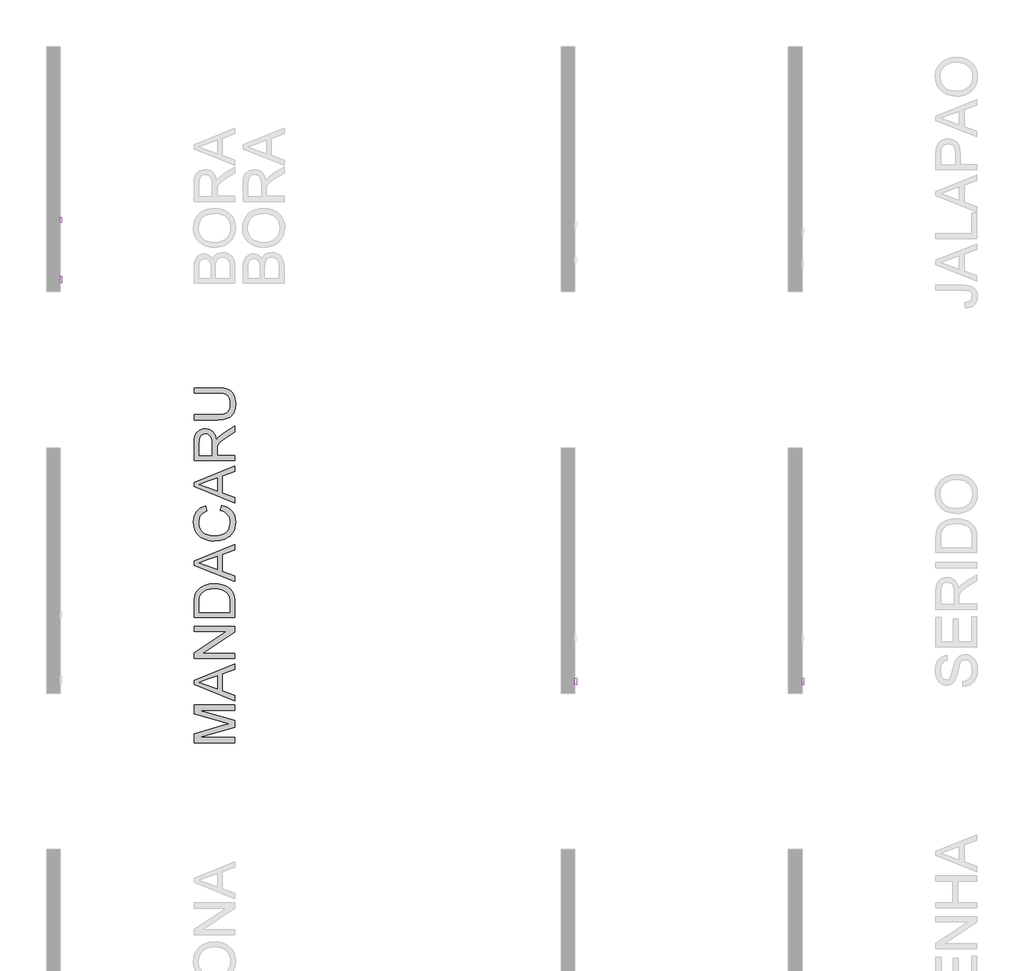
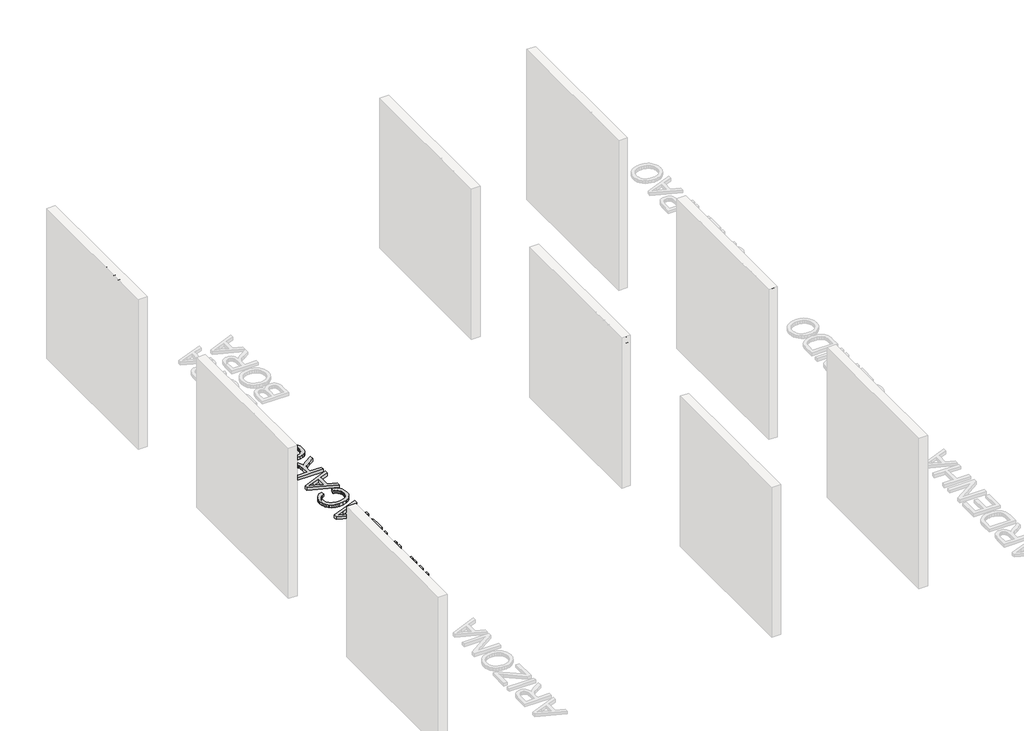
# One storey, part 8 of 11: 5 proxies.
"""IFC4 building model written with IfcOpenShell, lengths in millimetres."""

from ifc_helpers import new_model, si_unit, frame, origin, origin_with_axes, place, context, project, spatial, polyline, outline, extrude, element, save

model = new_model("IFC4")

# Units and contexts
model_context = context("Model", 3, world=origin())
ifc_project = project(units=[si_unit("LENGTHUNIT", "METRE", prefix="MILLI")], contexts=[model_context])

# Site, building, storey
site = spatial("IfcSite", under=ifc_project)
building = spatial("IfcBuilding", under=site)
storey = spatial("IfcBuildingStorey", under=building, Name="PORTOBELLO - SHOWROOM", Elevation=0.0)

# Proxies
placement = place(None, origin())
element("IfcBuildingElementProxy", 1, Name="10mm Arial", ObjectType="10mm Arial", at=placement, inside=storey, context=model_context, shape_type="SweptSolid", body=[
    extrude(outline(polyline([(6079.9490841, 2478.2261649), (6079.9490841, 2578.6824751), (6118.282388, 2578.6824751), (6137.0566325, 2575.7271564), (6148.1421433, 2566.6404711), (6152.152057, 2553.7891267), (6148.7798054, 2542.0536911), (6138.5894742, 2533.1632095), (6150.9625719, 2523.7944814), (6155.2913167, 2508.1717593), (6152.335998, 2494.6704901), (6145.0151463, 2485.0565073), (6134.0890511, 2479.9552103), (6117.9880824, 2478.2261649), (6079.9490841, 2478.2261649)]), holes=[polyline([(6092.5061229, 2537.8720991), (6115.4374339, 2537.8720991), (6128.8283385, 2538.9512196), (6136.8849542, 2543.5987955), (6139.5950183, 2551.7780385), (6137.0688952, 2559.9695443), (6129.8338827, 2564.8133239), (6113.6961258, 2566.1254363), (6092.5061229, 2566.1254363), (6092.5061229, 2537.8720991)]), polyline([(6092.5061229, 2490.7832037), (6118.2578626, 2490.7832037), (6127.5775398, 2491.273713), (6135.4624772, 2494.0083025), (6140.6864015, 2499.5878461), (6142.734278, 2508.049132), (6140.3307823, 2517.8102676), (6132.5439467, 2523.6350659), (6117.0315892, 2525.3150603), (6092.5061229, 2525.3150603), (6092.5061229, 2490.7832037)])]), frame((-24947.8341365, 0.0, 0.0), z_axis=(1.0, 0.0, 0.0), x_axis=(0.0, 1.0, 0.0)), (0.0, 0.0, 1.0), 20.0),
    extrude(outline(polyline([(6167.8483555, 2515.1124663), (6170.5645509, 2532.8995608), (6178.7131371, 2545.4014173), (6188.780841, 2551.5266525), (6200.8351077, 2553.5683975), (6214.0267429, 2551.0821284), (6224.5634964, 2543.6233209), (6231.4704809, 2531.7805864), (6233.772809, 2516.1425359), (6229.7015816, 2493.7998361), (6217.8435186, 2481.1569582), (6200.8351077, 2476.6565351), (6187.484057, 2479.1336072), (6176.9595662, 2486.5648235), (6170.1261582, 2498.6558784), (6167.8483555, 2515.1124663)]), holes=[polyline([(6180.4053943, 2515.1369918), (6181.8585282, 2503.7725038), (6186.2179298, 2495.6760342), (6192.778492, 2490.829189), (6200.8351077, 2489.2135739), (6208.8549352, 2490.838386), (6215.4032347, 2495.7128224), (6219.7626364, 2503.9165909), (6221.2157703, 2515.5293992), (6219.7534393, 2526.5627934), (6215.3664465, 2534.5488984), (6208.80895, 2539.3957437), (6200.8351077, 2541.0113588), (6192.778492, 2539.401875), (6186.2179298, 2534.5734239), (6181.8585282, 2526.4953484), (6180.4053943, 2515.1369918)])]), frame((-24947.8341365, 0.0, 0.0), z_axis=(1.0, 0.0, 0.0), x_axis=(0.0, 1.0, 0.0)), (0.0, 0.0, 1.0), 20.0),
    extrude(outline(polyline([(6247.8994777, 2478.2261649), (6247.8994777, 2551.9987677), (6258.8868866, 2551.9987677), (6258.8868866, 2541.0849352), (6266.6859849, 2551.1403764), (6274.5341341, 2553.5683975), (6287.1402238, 2549.6933739), (6282.9463691, 2538.4361848), (6274.1172012, 2541.0113588), (6267.0170787, 2538.5342867), (6262.4921301, 2531.6671561), (6260.4565164, 2517.0009272), (6260.4565164, 2478.2261649), (6247.8994777, 2478.2261649)])), frame((-24947.8341365, 0.0, 0.0), z_axis=(1.0, 0.0, 0.0), x_axis=(0.0, 1.0, 0.0)), (0.0, 0.0, 1.0), 20.0),
    extrude(outline(polyline([(6342.0772684, 2487.643944), (6329.9003744, 2479.1336072), (6316.4481561, 2476.6565351), (6305.9543222, 2478.1464572), (6298.2134719, 2482.6162234), (6293.440203, 2489.4036462), (6291.8491133, 2497.846538), (6294.252609, 2507.7793519), (6300.5679166, 2514.989839), (6309.3602963, 2519.1101173), (6320.2250779, 2520.9985782), (6342.003692, 2525.3150603), (6342.0772684, 2528.1109635), (6338.6191777, 2537.3815898), (6324.7377637, 2541.0113588), (6312.0335721, 2538.5956003), (6305.975782, 2530.0239499), (6293.4187432, 2531.5935797), (6298.851134, 2543.8563129), (6309.789492, 2551.0422745), (6326.3564445, 2553.5683975), (6341.5744964, 2551.3365801), (6350.1706723, 2545.732511), (6354.0211705, 2537.2099115), (6354.6343072, 2526.2225026), (6354.6343072, 2510.5997805), (6355.2719693, 2488.7843782), (6357.7735669, 2478.2261649), (6345.2165281, 2478.2261649), (6342.0772684, 2487.643944)]), holes=[polyline([(6342.0772684, 2512.7580215), (6321.8192332, 2508.9075233), (6311.0157653, 2506.8719096), (6306.1229348, 2503.5609717), (6304.4061521, 2498.7294548), (6308.1462857, 2491.9359006), (6319.1214319, 2489.2135739), (6331.8256235, 2492.2179435), (6340.0171292, 2499.4897443), (6342.003692, 2509.2018289), (6342.0772684, 2512.7580215)])]), frame((-24947.8341365, 0.0, 0.0), z_axis=(1.0, 0.0, 0.0), x_axis=(0.0, 1.0, 0.0)), (0.0, 0.0, 1.0), 20.0),
    extrude(outline(polyline([(6412.7106115, 2478.2261649), (6412.7106115, 2578.6824751), (6451.0439154, 2578.6824751), (6469.8181599, 2575.7271564), (6480.9036707, 2566.6404711), (6484.9135844, 2553.7891267), (6481.5413328, 2542.0536911), (6471.3510015, 2533.1632095), (6483.7240993, 2523.7944814), (6488.0528441, 2508.1717593), (6485.0975254, 2494.6704901), (6477.7766737, 2485.0565073), (6466.8505784, 2479.9552103), (6450.7496098, 2478.2261649), (6412.7106115, 2478.2261649)]), holes=[polyline([(6425.2676503, 2537.8720991), (6448.1989613, 2537.8720991), (6461.5898659, 2538.9512196), (6469.6464816, 2543.5987955), (6472.3565456, 2551.7780385), (6469.8304226, 2559.9695443), (6462.59541, 2564.8133239), (6446.4576532, 2566.1254363), (6425.2676503, 2566.1254363), (6425.2676503, 2537.8720991)]), polyline([(6425.2676503, 2490.7832037), (6451.0193899, 2490.7832037), (6460.3390671, 2491.273713), (6468.2240046, 2494.0083025), (6473.4479289, 2499.5878461), (6475.4958053, 2508.049132), (6473.0923096, 2517.8102676), (6465.3054741, 2523.6350659), (6449.7931166, 2525.3150603), (6425.2676503, 2525.3150603), (6425.2676503, 2490.7832037)])]), frame((-24947.8341365, 0.0, 0.0), z_axis=(1.0, 0.0, 0.0), x_axis=(0.0, 1.0, 0.0)), (0.0, 0.0, 1.0), 20.0),
    extrude(outline(polyline([(6500.6098829, 2515.1124663), (6503.3260783, 2532.8995608), (6511.4746645, 2545.4014173), (6521.5423684, 2551.5266525), (6533.5966351, 2553.5683975), (6546.7882703, 2551.0821284), (6557.3250238, 2543.6233209), (6564.2320083, 2531.7805864), (6566.5343364, 2516.1425359), (6562.463109, 2493.7998361), (6550.605046, 2481.1569582), (6533.5966351, 2476.6565351), (6520.2455844, 2479.1336072), (6509.7210936, 2486.5648235), (6502.8876856, 2498.6558784), (6500.6098829, 2515.1124663)]), holes=[polyline([(6513.1669216, 2515.1369918), (6514.6200555, 2503.7725038), (6518.9794572, 2495.6760342), (6525.5400194, 2490.829189), (6533.5966351, 2489.2135739), (6541.6164626, 2490.838386), (6548.1647621, 2495.7128224), (6552.5241638, 2503.9165909), (6553.9772976, 2515.5293992), (6552.5149667, 2526.5627934), (6548.1279739, 2534.5488984), (6541.5704774, 2539.3957437), (6533.5966351, 2541.0113588), (6525.5400194, 2539.401875), (6518.9794572, 2534.5734239), (6514.6200555, 2526.4953484), (6513.1669216, 2515.1369918)])]), frame((-24947.8341365, 0.0, 0.0), z_axis=(1.0, 0.0, 0.0), x_axis=(0.0, 1.0, 0.0)), (0.0, 0.0, 1.0), 20.0),
    extrude(outline(polyline([(6580.661005, 2478.2261649), (6580.661005, 2551.9987677), (6591.6484139, 2551.9987677), (6591.6484139, 2541.0849352), (6599.4475122, 2551.1403764), (6607.2956615, 2553.5683975), (6619.9017512, 2549.6933739), (6615.7078964, 2538.4361848), (6606.8787285, 2541.0113588), (6599.778606, 2538.5342867), (6595.2536575, 2531.6671561), (6593.2180438, 2517.0009272), (6593.2180438, 2478.2261649), (6580.661005, 2478.2261649)])), frame((-24947.8341365, 0.0, 0.0), z_axis=(1.0, 0.0, 0.0), x_axis=(0.0, 1.0, 0.0)), (0.0, 0.0, 1.0), 20.0),
    extrude(outline(polyline([(6674.8387958, 2487.643944), (6662.6619017, 2479.1336072), (6649.2096835, 2476.6565351), (6638.7158495, 2478.1464572), (6630.9749992, 2482.6162234), (6626.2017303, 2489.4036462), (6624.6106407, 2497.846538), (6627.0141364, 2507.7793519), (6633.329444, 2514.989839), (6642.1218237, 2519.1101173), (6652.9866053, 2520.9985782), (6674.7652194, 2525.3150603), (6674.8387958, 2528.1109635), (6671.380705, 2537.3815898), (6657.4992911, 2541.0113588), (6644.7950995, 2538.5956003), (6638.7373093, 2530.0239499), (6626.1802706, 2531.5935797), (6631.6126614, 2543.8563129), (6642.5510193, 2551.0422745), (6659.1179719, 2553.5683975), (6674.3360237, 2551.3365801), (6682.9321997, 2545.732511), (6686.7826979, 2537.2099115), (6687.3958346, 2526.2225026), (6687.3958346, 2510.5997805), (6688.0334967, 2488.7843782), (6690.5350942, 2478.2261649), (6677.9780555, 2478.2261649), (6674.8387958, 2487.643944)]), holes=[polyline([(6674.8387958, 2512.7580215), (6654.5807606, 2508.9075233), (6643.7772927, 2506.8719096), (6638.8844621, 2503.5609717), (6637.1676795, 2498.7294548), (6640.9078131, 2491.9359006), (6651.8829593, 2489.2135739), (6664.5871509, 2492.2179435), (6672.7786566, 2499.4897443), (6674.7652194, 2509.2018289), (6674.8387958, 2512.7580215)])]), frame((-24947.8341365, 0.0, 0.0), z_axis=(1.0, 0.0, 0.0), x_axis=(0.0, 1.0, 0.0)), (0.0, 0.0, 1.0), 20.0),
])
element("IfcBuildingElementProxy", 2, Name="10mm Arial", ObjectType="10mm Arial", at=placement, inside=storey, context=model_context, shape_type="SweptSolid", body=[
    extrude(outline(polyline([(1655.2401946, 2512.7580215), (1667.7972334, 2512.7580215), (1671.8439353, 2500.18872), (1681.7276982, 2492.242469), (1696.7863346, 2489.2135739), (1709.9074591, 2491.506705), (1718.3810077, 2497.8097498), (1721.1646481, 2506.2342475), (1719.0799835, 2514.070134), (1710.5451212, 2519.7723049), (1692.261386, 2524.5670336), (1672.5796993, 2530.7597138), (1661.8988587, 2540.1039165), (1658.3794543, 2552.5873789), (1662.7327246, 2566.7998866), (1675.4491789, 2576.8308024), (1694.0640078, 2580.2521049), (1713.9296355, 2576.6713868), (1727.1733874, 2566.1499618), (1732.152057, 2550.4291379), (1719.5950183, 2550.4291379), (1717.2896244, 2557.9216678), (1712.482633, 2563.3295332), (1694.5545171, 2567.6950662), (1676.5773503, 2563.3785841), (1670.936493, 2552.9552609), (1674.9341441, 2544.2487203), (1695.4374339, 2537.234437), (1717.6575064, 2530.9313921), (1729.809875, 2520.7533236), (1733.7216869, 2506.5530786), (1729.2212638, 2491.5312304), (1716.2718176, 2480.568347), (1697.2768439, 2476.6565351), (1674.8483049, 2480.8749153), (1660.6603226, 2493.5791069), (1655.2401946, 2512.7580215)])), frame((-16783.2092306, 0.0, 0.0), z_axis=(1.0, 0.0, 0.0), x_axis=(0.0, 1.0, 0.0)), (0.0, 0.0, 1.0), 20.0),
    extrude(outline(polyline([(1802.6382473, 2500.2009828), (1814.9500314, 2498.6313529), (1810.5139877, 2489.3545953), (1803.435325, 2482.4200197), (1793.8734588, 2478.0974062), (1781.9878047, 2476.6565351), (1767.2541307, 2479.1428042), (1755.9172339, 2486.6016117), (1748.6883527, 2498.5485795), (1746.2787257, 2514.4993297), (1748.7128782, 2530.9865744), (1756.0153358, 2543.3167526), (1767.1989484, 2551.0054863), (1781.2765661, 2553.5683975), (1794.9157911, 2551.0116177), (1805.8142952, 2543.3412781), (1812.960403, 2531.0356253), (1815.3424389, 2514.5729061), (1815.2688625, 2511.1883917), (1758.8357644, 2511.1883917), (1761.0093339, 2501.7890067), (1766.0585143, 2494.8789566), (1773.3456435, 2490.6299195), (1782.2330593, 2489.2135739), (1794.5448434, 2491.8377988), (1802.6382473, 2500.2009828)]), holes=[polyline([(1758.8357644, 2523.7454305), (1802.7854001, 2523.7454305), (1797.7576795, 2535.1252469), (1790.4368278, 2539.5398308), (1781.2275152, 2541.0113588), (1765.7642087, 2536.314732), (1760.8989693, 2530.8240932), (1758.8357644, 2523.7454305)])]), frame((-16783.2092306, 0.0, 0.0), z_axis=(1.0, 0.0, 0.0), x_axis=(0.0, 1.0, 0.0)), (0.0, 0.0, 1.0), 20.0),
    extrude(outline(polyline([(1827.8994777, 2478.2261649), (1827.8994777, 2551.9987677), (1838.8868866, 2551.9987677), (1838.8868866, 2541.0849352), (1846.6859849, 2551.1403764), (1854.5341341, 2553.5683975), (1867.1402238, 2549.6933739), (1862.9463691, 2538.4361848), (1854.1172012, 2541.0113588), (1847.0170787, 2538.5342867), (1842.4921301, 2531.6671561), (1840.4565164, 2517.0009272), (1840.4565164, 2478.2261649), (1827.8994777, 2478.2261649)])), frame((-16783.2092306, 0.0, 0.0), z_axis=(1.0, 0.0, 0.0), x_axis=(0.0, 1.0, 0.0)), (0.0, 0.0, 1.0), 20.0),
    extrude(outline(polyline([(-16763.2092306, 1887.5454118), (-16763.2092306, 1874.988373), (-16783.2092306, 1874.988373), (-16783.2092306, 1887.5454118), (-16763.2092306, 1887.5454118)])), frame((0.0, 0.0, 2566.1254363), z_axis=(0.0, 0.0, 1.0), x_axis=(1.0, 0.0, 0.0)), (0.0, 0.0, 1.0), 12.5570388),
    extrude(outline(polyline([(-16763.2092306, 1887.5454118), (-16763.2092306, 1874.988373), (-16783.2092306, 1874.988373), (-16783.2092306, 1887.5454118), (-16763.2092306, 1887.5454118)])), frame((0.0, 0.0, 2478.2261649), z_axis=(0.0, 0.0, 1.0), x_axis=(1.0, 0.0, 0.0)), (0.0, 0.0, 1.0), 73.7726028),
    extrude(outline(polyline([(1951.9002355, 2478.2261649), (1951.9002355, 2490.0719652), (1943.5922338, 2480.0103926), (1932.1081842, 2476.6565351), (1916.5590385, 2481.5125774), (1905.5716296, 2495.0628976), (1901.6720804, 2515.0388899), (1905.2650612, 2535.027145), (1916.031741, 2548.7859316), (1932.0591332, 2553.5683975), (1943.6351533, 2550.147095), (1951.9002355, 2541.2566134), (1951.9002355, 2578.6824751), (1964.4572743, 2578.6824751), (1964.4572743, 2478.2261649), (1951.9002355, 2478.2261649)]), holes=[polyline([(1914.2291192, 2515.0879409), (1915.6454649, 2503.7295842), (1919.8945019, 2495.6515088), (1926.0687881, 2490.8230576), (1933.2608811, 2489.2135739), (1940.4499084, 2490.7494812), (1946.4678447, 2495.3572032), (1950.5421378, 2503.122579), (1951.9002355, 2514.1314477), (1950.5176123, 2526.1673203), (1946.3697428, 2534.5121102), (1940.1985224, 2539.3865466), (1932.7458463, 2541.0113588), (1925.4801769, 2539.450926), (1919.5266199, 2534.7696276), (1915.5534944, 2526.7283403), (1914.2291192, 2515.0879409)])]), frame((-16783.2092306, 0.0, 0.0), z_axis=(1.0, 0.0, 0.0), x_axis=(0.0, 1.0, 0.0)), (0.0, 0.0, 1.0), 20.0),
    extrude(outline(polyline([(1980.1535727, 2515.1124663), (1982.8697681, 2532.8995608), (1991.0183543, 2545.4014173), (2001.0860582, 2551.5266525), (2013.140325, 2553.5683975), (2026.3319602, 2551.0821284), (2036.8687136, 2543.6233209), (2043.7756981, 2531.7805864), (2046.0780263, 2516.1425359), (2042.0067988, 2493.7998361), (2030.1487359, 2481.1569582), (2013.140325, 2476.6565351), (1999.7892742, 2479.1336072), (1989.2647835, 2486.5648235), (1982.4313754, 2498.6558784), (1980.1535727, 2515.1124663)]), holes=[polyline([(1992.7106115, 2515.1369918), (1994.1637454, 2503.7725038), (1998.523147, 2495.6760342), (2005.0837093, 2490.829189), (2013.140325, 2489.2135739), (2021.1601525, 2490.838386), (2027.708452, 2495.7128224), (2032.0678536, 2503.9165909), (2033.5209875, 2515.5293992), (2032.0586566, 2526.5627934), (2027.6716638, 2534.5488984), (2021.1141672, 2539.3957437), (2013.140325, 2541.0113588), (2005.0837093, 2539.401875), (1998.523147, 2534.5734239), (1994.1637454, 2526.4953484), (1992.7106115, 2515.1369918)])]), frame((-16783.2092306, 0.0, 0.0), z_axis=(1.0, 0.0, 0.0), x_axis=(0.0, 1.0, 0.0)), (0.0, 0.0, 1.0), 20.0),
])
element("IfcBuildingElementProxy", 3, Name="10mm Arial", ObjectType="10mm Arial", at=placement, inside=storey, context=model_context, shape_type="SweptSolid", body=[
    extrude(outline(polyline([(1655.2401946, 2512.7580215), (1667.7972334, 2512.7580215), (1671.8439353, 2500.18872), (1681.7276982, 2492.242469), (1696.7863346, 2489.2135739), (1709.9074591, 2491.506705), (1718.3810077, 2497.8097498), (1721.1646481, 2506.2342475), (1719.0799835, 2514.070134), (1710.5451212, 2519.7723049), (1692.261386, 2524.5670336), (1672.5796993, 2530.7597138), (1661.8988587, 2540.1039165), (1658.3794543, 2552.5873789), (1662.7327246, 2566.7998866), (1675.4491789, 2576.8308024), (1694.0640078, 2580.2521049), (1713.9296355, 2576.6713868), (1727.1733874, 2566.1499618), (1732.152057, 2550.4291379), (1719.5950183, 2550.4291379), (1717.2896244, 2557.9216678), (1712.482633, 2563.3295332), (1694.5545171, 2567.6950662), (1676.5773503, 2563.3785841), (1670.936493, 2552.9552609), (1674.9341441, 2544.2487203), (1695.4374339, 2537.234437), (1717.6575064, 2530.9313921), (1729.809875, 2520.7533236), (1733.7216869, 2506.5530786), (1729.2212638, 2491.5312304), (1716.2718176, 2480.568347), (1697.2768439, 2476.6565351), (1674.8483049, 2480.8749153), (1660.6603226, 2493.5791069), (1655.2401946, 2512.7580215)])), frame((-19283.2092306, 0.0, 0.0), z_axis=(1.0, 0.0, 0.0), x_axis=(0.0, 1.0, 0.0)), (0.0, 0.0, 1.0), 20.0),
    extrude(outline(polyline([(1802.6382473, 2500.2009828), (1814.9500314, 2498.6313529), (1810.5139877, 2489.3545953), (1803.435325, 2482.4200197), (1793.8734588, 2478.0974062), (1781.9878047, 2476.6565351), (1767.2541307, 2479.1428042), (1755.9172339, 2486.6016117), (1748.6883527, 2498.5485795), (1746.2787257, 2514.4993297), (1748.7128782, 2530.9865744), (1756.0153358, 2543.3167526), (1767.1989484, 2551.0054863), (1781.2765661, 2553.5683975), (1794.9157911, 2551.0116177), (1805.8142952, 2543.3412781), (1812.960403, 2531.0356253), (1815.3424389, 2514.5729061), (1815.2688625, 2511.1883917), (1758.8357644, 2511.1883917), (1761.0093339, 2501.7890067), (1766.0585143, 2494.8789566), (1773.3456435, 2490.6299195), (1782.2330593, 2489.2135739), (1794.5448434, 2491.8377988), (1802.6382473, 2500.2009828)]), holes=[polyline([(1758.8357644, 2523.7454305), (1802.7854001, 2523.7454305), (1797.7576795, 2535.1252469), (1790.4368278, 2539.5398308), (1781.2275152, 2541.0113588), (1765.7642087, 2536.314732), (1760.8989693, 2530.8240932), (1758.8357644, 2523.7454305)])]), frame((-19283.2092306, 0.0, 0.0), z_axis=(1.0, 0.0, 0.0), x_axis=(0.0, 1.0, 0.0)), (0.0, 0.0, 1.0), 20.0),
    extrude(outline(polyline([(1827.8994777, 2478.2261649), (1827.8994777, 2551.9987677), (1838.8868866, 2551.9987677), (1838.8868866, 2541.0849352), (1846.6859849, 2551.1403764), (1854.5341341, 2553.5683975), (1867.1402238, 2549.6933739), (1862.9463691, 2538.4361848), (1854.1172012, 2541.0113588), (1847.0170787, 2538.5342867), (1842.4921301, 2531.6671561), (1840.4565164, 2517.0009272), (1840.4565164, 2478.2261649), (1827.8994777, 2478.2261649)])), frame((-19283.2092306, 0.0, 0.0), z_axis=(1.0, 0.0, 0.0), x_axis=(0.0, 1.0, 0.0)), (0.0, 0.0, 1.0), 20.0),
    extrude(outline(polyline([(-19263.2092306, 1887.5454118), (-19263.2092306, 1874.988373), (-19283.2092306, 1874.988373), (-19283.2092306, 1887.5454118), (-19263.2092306, 1887.5454118)])), frame((0.0, 0.0, 2566.1254363), z_axis=(0.0, 0.0, 1.0), x_axis=(1.0, 0.0, 0.0)), (0.0, 0.0, 1.0), 12.5570388),
    extrude(outline(polyline([(-19263.2092306, 1887.5454118), (-19263.2092306, 1874.988373), (-19283.2092306, 1874.988373), (-19283.2092306, 1887.5454118), (-19263.2092306, 1887.5454118)])), frame((0.0, 0.0, 2478.2261649), z_axis=(0.0, 0.0, 1.0), x_axis=(1.0, 0.0, 0.0)), (0.0, 0.0, 1.0), 73.7726028),
    extrude(outline(polyline([(1951.9002355, 2478.2261649), (1951.9002355, 2490.0719652), (1943.5922338, 2480.0103926), (1932.1081842, 2476.6565351), (1916.5590385, 2481.5125774), (1905.5716296, 2495.0628976), (1901.6720804, 2515.0388899), (1905.2650612, 2535.027145), (1916.031741, 2548.7859316), (1932.0591332, 2553.5683975), (1943.6351533, 2550.147095), (1951.9002355, 2541.2566134), (1951.9002355, 2578.6824751), (1964.4572743, 2578.6824751), (1964.4572743, 2478.2261649), (1951.9002355, 2478.2261649)]), holes=[polyline([(1914.2291192, 2515.0879409), (1915.6454649, 2503.7295842), (1919.8945019, 2495.6515088), (1926.0687881, 2490.8230576), (1933.2608811, 2489.2135739), (1940.4499084, 2490.7494812), (1946.4678447, 2495.3572032), (1950.5421378, 2503.122579), (1951.9002355, 2514.1314477), (1950.5176123, 2526.1673203), (1946.3697428, 2534.5121102), (1940.1985224, 2539.3865466), (1932.7458463, 2541.0113588), (1925.4801769, 2539.450926), (1919.5266199, 2534.7696276), (1915.5534944, 2526.7283403), (1914.2291192, 2515.0879409)])]), frame((-19283.2092306, 0.0, 0.0), z_axis=(1.0, 0.0, 0.0), x_axis=(0.0, 1.0, 0.0)), (0.0, 0.0, 1.0), 20.0),
    extrude(outline(polyline([(1980.1535727, 2515.1124663), (1982.8697681, 2532.8995608), (1991.0183543, 2545.4014173), (2001.0860582, 2551.5266525), (2013.140325, 2553.5683975), (2026.3319602, 2551.0821284), (2036.8687136, 2543.6233209), (2043.7756981, 2531.7805864), (2046.0780263, 2516.1425359), (2042.0067988, 2493.7998361), (2030.1487359, 2481.1569582), (2013.140325, 2476.6565351), (1999.7892742, 2479.1336072), (1989.2647835, 2486.5648235), (1982.4313754, 2498.6558784), (1980.1535727, 2515.1124663)]), holes=[polyline([(1992.7106115, 2515.1369918), (1994.1637454, 2503.7725038), (1998.523147, 2495.6760342), (2005.0837093, 2490.829189), (2013.140325, 2489.2135739), (2021.1601525, 2490.838386), (2027.708452, 2495.7128224), (2032.0678536, 2503.9165909), (2033.5209875, 2515.5293992), (2032.0586566, 2526.5627934), (2027.6716638, 2534.5488984), (2021.1141672, 2539.3957437), (2013.140325, 2541.0113588), (2005.0837093, 2539.401875), (1998.523147, 2534.5734239), (1994.1637454, 2526.4953484), (1992.7106115, 2515.1369918)])]), frame((-19283.2092306, 0.0, 0.0), z_axis=(1.0, 0.0, 0.0), x_axis=(0.0, 1.0, 0.0)), (0.0, 0.0, 1.0), 20.0),
])
element("IfcBuildingElementProxy", 4, Name="10mm Arial Narrow", ObjectType="10mm Arial Narrow", at=placement, inside=storey, context=model_context, shape_type="SweptSolid", body=[
    extrude(outline(polyline([(6742.0841432, 2478.2261649), (6742.0841432, 2578.9447687), (6773.3810279, 2578.9447687), (6789.6767294, 2577.066448), (6801.1497156, 2567.5860048), (6805.439394, 2550.566896), (6803.6530856, 2538.4910704), (6798.2941604, 2528.8646766), (6788.5503716, 2522.5634182), (6773.6094723, 2520.4629988), (6751.8311049, 2520.4629988), (6751.8311049, 2478.2261649), (6742.0841432, 2478.2261649)]), holes=[polyline([(6751.8311049, 2531.834454), (6774.8024598, 2531.834454), (6790.6666552, 2536.3652682), (6795.6924323, 2550.033859), (6793.2176179, 2560.1996354), (6787.239989, 2565.9995852), (6774.5740154, 2567.5733134), (6751.8311049, 2567.5733134), (6751.8311049, 2531.834454)])]), frame((-24947.8341365, 0.0, 0.0), z_axis=(1.0, 0.0, 0.0), x_axis=(0.0, 1.0, 0.0)), (0.0, 0.0, 1.0), 20.0),
    extrude(outline(polyline([(6813.561862, 2514.7772711), (6815.5163309, 2531.3680467), (6821.3797375, 2543.3201315), (6830.2383042, 2550.5446861), (6841.1782534, 2552.9528709), (6851.991289, 2550.5446861), (6860.8752384, 2543.3201315), (6866.8147932, 2531.558417), (6868.7946447, 2515.5387525), (6866.8496944, 2498.3768659), (6861.0148433, 2486.2344108), (6852.1657951, 2479.0098562), (6841.1782534, 2476.6016713), (6830.3176252, 2479.0162019), (6821.4431943, 2486.2597935), (6815.5321951, 2498.218224), (6813.561862, 2514.7772711)]), holes=[polyline([(6823.3088237, 2514.8026538), (6824.6128606, 2502.2509024), (6828.5249711, 2493.3796444), (6834.3661679, 2488.1063858), (6841.4574632, 2486.348633), (6848.1775364, 2488.12225), (6853.8696097, 2493.4431012), (6857.7531647, 2502.3302234), (6859.0476831, 2514.8026538), (6857.7436462, 2527.3163312), (6853.8315356, 2536.1748979), (6847.9903389, 2541.4481564), (6840.8990435, 2543.2059093), (6834.1313778, 2541.4386379), (6828.448823, 2536.1368238), (6824.5938235, 2527.2687386), (6823.3088237, 2514.8026538)])]), frame((-24947.8341365, 0.0, 0.0), z_axis=(1.0, 0.0, 0.0), x_axis=(0.0, 1.0, 0.0)), (0.0, 0.0, 1.0), 20.0),
    extrude(outline(polyline([(6940.2723635, 2486.348633), (6941.8968571, 2476.6016713), (6934.5358705, 2476.6016713), (6926.2611062, 2478.7211278), (6921.946045, 2484.5210777), (6920.7784402, 2499.1669029), (6920.7784402, 2541.5814157), (6912.6559722, 2541.5814157), (6912.6559722, 2544.8304029), (6911.0314786, 2539.9569221), (6903.4674302, 2541.5814157), (6897.3882705, 2539.2588975), (6893.5174068, 2532.7736144), (6891.5375553, 2517.3663078), (6891.5375553, 2478.2261649), (6881.7905936, 2478.2261649), (6881.7905936, 2551.3283773), (6891.5375553, 2551.3283773), (6891.5375553, 2541.6321811), (6897.7817026, 2550.7191922), (6904.1781462, 2552.9528709), (6912.6559722, 2551.3283773), (6920.7784402, 2551.3283773), (6920.7784402, 2567.5733134), (6930.5254019, 2575.6957815), (6930.5254019, 2551.3283773), (6940.2723635, 2551.3283773), (6940.2723635, 2541.5814157), (6930.5254019, 2541.5814157), (6930.5254019, 2496.9332241), (6931.3884141, 2488.9376697), (6936.0080678, 2486.348633), (6940.2723635, 2486.348633)])), frame((-24947.8341365, 0.0, 0.0), z_axis=(1.0, 0.0, 0.0), x_axis=(0.0, 1.0, 0.0)), (0.0, 0.0, 1.0), 20.0),
    extrude(outline(polyline([(6946.770338, 2514.7772711), (6948.7248068, 2531.3680467), (6954.5882135, 2543.3201315), (6963.4467802, 2550.5446861), (6974.3867293, 2552.9528709), (6985.1997649, 2550.5446861), (6994.0837143, 2543.3201315), (7000.0232691, 2531.558417), (7002.0031207, 2515.5387525), (7000.0581703, 2498.3768659), (6994.2233192, 2486.2344108), (6985.3742711, 2479.0098562), (6974.3867293, 2476.6016713), (6963.5261011, 2479.0162019), (6954.6516702, 2486.2597935), (6948.740671, 2498.218224), (6946.770338, 2514.7772711)]), holes=[polyline([(6956.5172996, 2514.8026538), (6957.8213365, 2502.2509024), (6961.7334471, 2493.3796444), (6967.5746438, 2488.1063858), (6974.6659392, 2486.348633), (6981.3860123, 2488.12225), (6987.0780856, 2493.4431012), (6990.9616407, 2502.3302234), (6992.256159, 2514.8026538), (6990.9521222, 2527.3163312), (6987.0400116, 2536.1748979), (6981.1988148, 2541.4481564), (6974.1075195, 2543.2059093), (6967.3398537, 2541.4386379), (6961.6572989, 2536.1368238), (6957.8022994, 2527.2687386), (6956.5172996, 2514.8026538)])]), frame((-24947.8341365, 0.0, 0.0), z_axis=(1.0, 0.0, 0.0), x_axis=(0.0, 1.0, 0.0)), (0.0, 0.0, 1.0), 20.0),
    extrude(outline(polyline([(7024.7460312, 2478.2261649), (7014.9990695, 2478.2261649), (7014.9990695, 2578.9447687), (7024.7460312, 2578.9447687), (7024.7460312, 2543.5358846), (7032.1450919, 2550.6176614), (7041.3463253, 2552.9528709), (7054.2280519, 2548.752032), (7063.5054334, 2536.0226016), (7066.982865, 2515.3356908), (7065.050606, 2498.8813473), (7059.253829, 2486.6786082), (7050.8807067, 2479.1209056), (7041.2194117, 2476.6016713), (7031.8785734, 2479.2160907), (7024.7460312, 2486.9832008), (7024.7460312, 2478.2261649)]), holes=[polyline([(7024.7460312, 2515.3356908), (7026.8274136, 2498.0881376), (7032.716203, 2489.3564844), (7041.1686463, 2486.348633), (7047.1113739, 2488.1381142), (7052.3497312, 2493.5065579), (7057.2359034, 2514.9295674), (7052.5274102, 2536.3652682), (7047.2827072, 2541.495749), (7040.9655846, 2543.2059093), (7034.9879557, 2541.416428), (7029.6956602, 2536.0479843), (7024.7460312, 2515.3356908)])]), frame((-24947.8341365, 0.0, 0.0), z_axis=(1.0, 0.0, 0.0), x_axis=(0.0, 1.0, 0.0)), (0.0, 0.0, 1.0), 20.0),
    extrude(outline(polyline([(7118.9666605, 2500.9690755), (7128.7136222, 2499.3445819), (7125.0140918, 2489.4580153), (7119.1951049, 2482.3381644), (7111.4914516, 2478.0357946), (7102.137922, 2476.6016713), (7090.544368, 2479.0162019), (7081.4002458, 2486.2597935), (7075.460691, 2498.0659277), (7073.4808395, 2514.168086), (7075.4702096, 2530.8350097), (7081.4383199, 2543.0155389), (7090.4523557, 2550.4685379), (7101.5795024, 2552.9528709), (7112.2624515, 2550.5542046), (7121.0099689, 2543.3582056), (7126.8448199, 2531.618701), (7128.7897703, 2515.5895179), (7128.7136222, 2512.3405307), (7083.2278011, 2512.3405307), (7089.2308127, 2492.8973728), (7095.1608489, 2487.9858179), (7102.2648356, 2486.348633), (7112.4433034, 2490.0037436), (7118.9666605, 2500.9690755)]), holes=[polyline([(7083.8877516, 2522.0874924), (7118.9666605, 2522.0874924), (7114.7023648, 2536.3525769), (7108.8770322, 2541.4925762), (7101.6556505, 2543.2059093), (7089.4465657, 2537.4947989), (7083.8877516, 2522.0874924)])]), frame((-24947.8341365, 0.0, 0.0), z_axis=(1.0, 0.0, 0.0), x_axis=(0.0, 1.0, 0.0)), (0.0, 0.0, 1.0), 20.0),
    extrude(outline(polyline([(-24927.8341365, 7151.4565327), (-24927.8341365, 7141.709571), (-24947.8341365, 7141.709571), (-24947.8341365, 7151.4565327), (-24927.8341365, 7151.4565327)])), frame((0.0, 0.0, 2478.2261649), z_axis=(0.0, 0.0, 1.0), x_axis=(1.0, 0.0, 0.0)), (0.0, 0.0, 1.0), 100.7186038),
    extrude(outline(polyline([(-24927.8341365, 7177.4484304), (-24927.8341365, 7167.7014688), (-24947.8341365, 7167.7014688), (-24947.8341365, 7177.4484304), (-24927.8341365, 7177.4484304)])), frame((0.0, 0.0, 2478.2261649), z_axis=(0.0, 0.0, 1.0), x_axis=(1.0, 0.0, 0.0)), (0.0, 0.0, 1.0), 100.7186038),
    extrude(outline(polyline([(7188.8198857, 2514.7772711), (7190.7743546, 2531.3680467), (7196.6377612, 2543.3201315), (7205.4963279, 2550.5446861), (7216.436277, 2552.9528709), (7227.2493126, 2550.5446861), (7236.1332621, 2543.3201315), (7242.0728168, 2531.558417), (7244.0526684, 2515.5387525), (7242.107718, 2498.3768659), (7236.272867, 2486.2344108), (7227.4238188, 2479.0098562), (7216.436277, 2476.6016713), (7205.5756489, 2479.0162019), (7196.701218, 2486.2597935), (7190.7902188, 2498.218224), (7188.8198857, 2514.7772711)]), holes=[polyline([(7198.5668473, 2514.8026538), (7199.8708842, 2502.2509024), (7203.7829948, 2493.3796444), (7209.6241915, 2488.1063858), (7216.7154869, 2486.348633), (7223.4355601, 2488.12225), (7229.1276334, 2493.4431012), (7233.0111884, 2502.3302234), (7234.3057067, 2514.8026538), (7233.0016699, 2527.3163312), (7229.0895593, 2536.1748979), (7223.2483626, 2541.4481564), (7216.1570672, 2543.2059093), (7209.3894015, 2541.4386379), (7203.7068467, 2536.1368238), (7199.8518472, 2527.2687386), (7198.5668473, 2514.8026538)])]), frame((-24947.8341365, 0.0, 0.0), z_axis=(1.0, 0.0, 0.0), x_axis=(0.0, 1.0, 0.0)), (0.0, 0.0, 1.0), 20.0),
])
element("IfcBuildingElementProxy", 5, Name="450mm Arial", ObjectType="450mm Arial", at=placement, inside=storey, context=model_context, shape_type="SweptSolid", body=[
    extrude(outline(polyline([(-23024.8078378, 1018.7709195), (-23474.4639806, 1018.7709195), (-23474.4639806, 1115.4865107), (-23157.5310499, 1207.4815907), (-23091.3341129, 1226.0342978), (-23163.0200165, 1246.1239155), (-23474.4639806, 1336.5820849), (-23474.4639806, 1433.2976761), (-23024.8078378, 1433.2976761), (-23024.8078378, 1377.0906583), (-23418.2569628, 1377.0906583), (-23024.8078378, 1264.1277259), (-23024.8078378, 1187.9408697), (-23418.2569628, 1074.9779373), (-23024.8078378, 1074.9779373), (-23024.8078378, 1018.7709195)])), origin_with_axes(), (0.0, 0.0, 1.0), 50.0),
    extrude(outline(polyline([(-23024.8078378, 1479.2952161), (-23474.4639806, 1658.7844235), (-23474.4639806, 1706.6482122), (-23024.8078378, 1886.1374196), (-23024.8078378, 1826.7468011), (-23165.3253824, 1775.2602945), (-23165.3253824, 1590.0625619), (-23024.8078378, 1538.6858346), (-23024.8078378, 1479.2952161)]), holes=[polyline([(-23221.5324003, 1610.7010762), (-23221.5324003, 1754.7315595), (-23332.0801874, 1714.2229861), (-23418.2569628, 1682.7163179), (-23341.7407686, 1654.7225883), (-23221.5324003, 1610.7010762)])]), origin_with_axes(), (0.0, 0.0, 1.0), 50.0),
    extrude(outline(polyline([(-23024.8078378, 1946.186714), (-23474.4639806, 1946.186714), (-23474.4639806, 2006.3457878), (-23118.2300491, 2241.2735578), (-23474.4639806, 2241.2735578), (-23474.4639806, 2297.4805756), (-23024.8078378, 2297.4805756), (-23024.8078378, 2237.3215018), (-23381.1515487, 2002.3937319), (-23024.8078378, 2002.3937319), (-23024.8078378, 1946.186714)])), origin_with_axes(), (0.0, 0.0, 1.0), 50.0),
    extrude(outline(polyline([(-23024.8078378, 2395.8428569), (-23474.4639806, 2395.8428569), (-23474.4639806, 2550.9610526), (-23472.8447355, 2597.3153754), (-23467.9870001, 2631.2097441), (-23455.4996011, 2667.0526959), (-23435.8216559, 2697.2969018), (-23401.5705044, 2728.3918975), (-23358.9761236, 2750.5398777), (-23308.8618587, 2763.795732), (-23252.0510545, 2768.2143501), (-23203.7893158, 2765.2228633), (-23161.3184368, 2756.248403), (-23125.1598694, 2742.5808762), (-23095.8350655, 2725.5101901), (-23072.6853489, 2705.8596897), (-23055.0520437, 2684.45272), (-23041.9745808, 2659.8758721), (-23032.492391, 2630.7157371), (-23026.7289761, 2596.9174254), (-23024.8078378, 2558.4260472), (-23024.8078378, 2395.8428569)]), holes=[polyline([(-23081.0148557, 2452.0498747), (-23081.0148557, 2551.5099493), (-23083.0457733, 2592.6497538), (-23089.1385262, 2623.8545289), (-23098.9363316, 2647.4021955), (-23112.0824066, 2665.570675), (-23136.412251, 2685.0976736), (-23167.9051967, 2699.7669368), (-23206.6984681, 2708.9472334), (-23252.9292892, 2712.0073323), (-23285.5611955, 2710.5081583), (-23314.1861563, 2706.0106363), (-23338.8041714, 2698.5147663), (-23359.415241, 2688.0205483), (-23390.4827919, 2661.4402276), (-23401.4058354, 2646.2049147), (-23409.2550576, 2629.6728335), (-23416.0064865, 2597.3428203), (-23418.2569628, 2549.9730386), (-23418.2569628, 2452.0498747), (-23081.0148557, 2452.0498747)])]), origin_with_axes(), (0.0, 0.0, 1.0), 50.0),
    extrude(outline(polyline([(-23024.8078378, 2793.1342584), (-23474.4639806, 2972.6234658), (-23474.4639806, 3020.4872545), (-23024.8078378, 3199.9764619), (-23024.8078378, 3140.5858434), (-23165.3253824, 3089.0993368), (-23165.3253824, 2903.9016042), (-23024.8078378, 2852.5248769), (-23024.8078378, 2793.1342584)]), holes=[polyline([(-23221.5324003, 2924.5401185), (-23221.5324003, 3068.5706018), (-23332.0801874, 3028.0620284), (-23418.2569628, 2996.5553602), (-23341.7407686, 2968.5616306), (-23221.5324003, 2924.5401185)])]), origin_with_axes(), (0.0, 0.0, 1.0), 50.0),
    extrude(outline(polyline([(-23184.6465448, 3576.1902318), (-23170.155673, 3632.3972496), (-23135.2012477, 3621.2752311), (-23104.6585792, 3606.4618825), (-23078.5276677, 3587.9572039), (-23056.808513, 3565.7611952), (-23039.7343963, 3540.3747248), (-23027.5385987, 3512.2986607), (-23020.2211201, 3481.533003), (-23017.7819606, 3448.0777516), (-23019.6276256, 3413.8025859), (-23025.1646206, 3382.882551), (-23034.3929457, 3355.3176469), (-23047.3126008, 3331.1078736), (-23063.7314721, 3309.9204626), (-23083.4574458, 3291.4226452), (-23106.4905218, 3275.6144214), (-23132.8307003, 3262.4957913), (-23190.8765219, 3244.8350413), (-23253.0390685, 3238.9481246), (-23286.9402984, 3240.6119676), (-23318.6047744, 3245.6034966), (-23348.0324965, 3253.9227116), (-23375.2234647, 3265.5696126), (-23399.7282699, 3280.2834736), (-23421.097503, 3297.8035689), (-23439.3311639, 3318.1298983), (-23454.4292526, 3341.2624618), (-23466.2682674, 3366.4156512), (-23474.7247065, 3392.8038581), (-23479.79857, 3420.4270824), (-23481.4898579, 3449.2853243), (-23479.3011324, 3481.4335154), (-23472.7349562, 3510.9126966), (-23461.791329, 3537.7228678), (-23446.470251, 3561.864029), (-23427.1765335, 3582.9382301), (-23404.3149877, 3600.547521), (-23377.8856135, 3614.6919018), (-23347.8884111, 3625.3713724), (-23334.4953327, 3569.1643545), (-23375.4841907, 3549.6785231), (-23391.1517597, 3537.2597362), (-23403.601422, 3523.0570352), (-23413.0870424, 3506.9880855), (-23419.8624855, 3488.9705527), (-23425.28284, 3447.0897376), (-23423.7802354, 3421.8747974), (-23419.2724216, 3398.8142765), (-23411.7593986, 3377.908175), (-23401.2411664, 3359.1564929), (-23388.1911483, 3342.7959419), (-23373.0827678, 3329.0632336), (-23355.9160248, 3317.9583681), (-23336.6909193, 3309.4813453), (-23295.5511147, 3298.7366932), (-23253.1488478, 3295.1551425), (-23201.2232239, 3299.3953692), (-23156.3234772, 3312.1160492), (-23136.9371334, 3321.7766304), (-23120.1649099, 3333.7974673), (-23106.0068067, 3348.1785597), (-23094.4628238, 3364.9199078), (-23079.1074398, 3402.2311582), (-23073.9889784, 3442.4790057), (-23075.7317253, 3466.9151988), (-23080.959966, 3489.3959476), (-23089.6737005, 3509.921252), (-23101.8729287, 3528.4911121), (-23117.5027611, 3544.6664105), (-23136.5083079, 3558.0080299), (-23158.8895691, 3568.5159703), (-23184.6465448, 3576.1902318)])), origin_with_axes(), (0.0, 0.0, 1.0), 50.0),
    extrude(outline(polyline([(-23024.8078378, 3657.3171579), (-23474.4639806, 3836.8063653), (-23474.4639806, 3884.670154), (-23024.8078378, 4064.1593614), (-23024.8078378, 4004.7687429), (-23165.3253824, 3953.2822363), (-23165.3253824, 3768.0845036), (-23024.8078378, 3716.7077764), (-23024.8078378, 3657.3171579)]), holes=[polyline([(-23221.5324003, 3788.723018), (-23221.5324003, 3932.7535013), (-23332.0801874, 3892.2449278), (-23418.2569628, 3860.7382596), (-23341.7407686, 3832.74453), (-23221.5324003, 3788.723018)])]), origin_with_axes(), (0.0, 0.0, 1.0), 50.0),
    extrude(outline(polyline([(-23024.8078378, 4124.2086558), (-23474.4639806, 4124.2086558), (-23474.4639806, 4317.9691763), (-23471.4313266, 4370.0457468), (-23462.3333645, 4407.9333387), (-23445.5371267, 4435.6251751), (-23419.4096458, 4457.1144793), (-23387.0110205, 4470.9055079), (-23351.4013498, 4475.5025174), (-23328.3065228, 4473.5985321), (-23307.1053894, 4467.8865763), (-23287.7979494, 4458.3666498), (-23270.3842029, 4445.0387528), (-23255.4199078, 4427.7313551), (-23243.4608218, 4406.2729263), (-23234.5069451, 4380.6634666), (-23228.5582775, 4350.9029759), (-23204.5166039, 4382.8487614), (-23146.6628961, 4428.4071841), (-23024.8078378, 4503.3864677), (-23024.8078378, 4438.0677653), (-23118.0104905, 4379.5553814), (-23179.7064749, 4337.2903387), (-23197.6965629, 4321.5781719), (-23208.8528875, 4307.5950295), (-23219.5563723, 4280.8637622), (-23221.5324003, 4248.2593007), (-23221.5324003, 4180.4156737), (-23024.8078378, 4180.4156737), (-23024.8078378, 4124.2086558)]), holes=[polyline([(-23277.7394182, 4180.4156737), (-23277.7394182, 4306.2227878), (-23279.7291685, 4342.3539104), (-23285.6984197, 4370.3888072), (-23296.0451217, 4391.4938838), (-23311.1672247, 4406.8355454), (-23329.4592058, 4416.180511), (-23349.3155424, 4419.2954995), (-23363.6897737, 4417.810048), (-23376.7329306, 4413.3536932), (-23398.8260211, 4395.5282742), (-23407.3270581, 4381.9190677), (-23413.3992274, 4364.8586734), (-23418.2569628, 4320.3843216), (-23418.2569628, 4180.4156737), (-23277.7394182, 4180.4156737)])]), origin_with_axes(), (0.0, 0.0, 1.0), 50.0),
    extrude(outline(polyline([(-23474.4639806, 4868.9516424), (-23474.4639806, 4925.1586602), (-23215.0554197, 4925.1586602), (-23154.306282, 4921.3438284), (-23107.5265643, 4909.8993331), (-23088.5553235, 4900.7396201), (-23071.436609, 4888.5198082), (-23056.1704207, 4873.2398975), (-23042.7567586, 4854.8998879), (-23031.8302844, 4833.4791958), (-23024.0256601, 4808.9572376), (-23019.3428855, 4781.3340132), (-23017.7819606, 4750.6095227), (-23023.2160375, 4693.5379926), (-23030.0086337, 4669.2939134), (-23039.5182683, 4647.9109579), (-23051.6042866, 4629.3856957), (-23066.1260338, 4613.7146961), (-23083.08351, 4600.8979591), (-23102.476715, 4590.9354847), (-23151.2324607, 4578.1324702), (-23215.0554197, 4573.8647986), (-23474.4639806, 4573.8647986), (-23474.4639806, 4630.0718165), (-23217.0314477, 4630.0718165), (-23166.5192327, 4632.8437446), (-23131.3486793, 4641.159529), (-23106.99139, 4656.2267423), (-23088.9189676, 4679.2529571), (-23077.7214757, 4709.2776043), (-23073.9889784, 4745.3401148), (-23075.8346435, 4776.31847), (-23081.3716385, 4802.5077018), (-23090.5999636, 4823.9078103), (-23103.5196187, 4840.5187954), (-23121.6880981, 4852.958166), (-23146.6628961, 4861.8434306), (-23178.4440126, 4867.1745894), (-23217.0314477, 4868.9516424), (-23474.4639806, 4868.9516424)])), origin_with_axes(), (0.0, 0.0, 1.0), 50.0),
])

save(model, "model.ifc")
